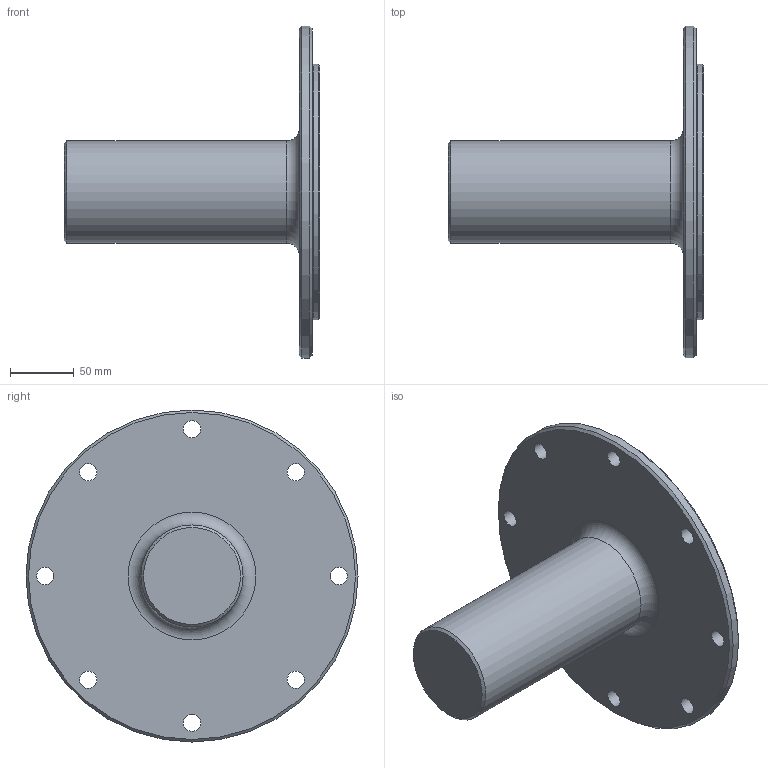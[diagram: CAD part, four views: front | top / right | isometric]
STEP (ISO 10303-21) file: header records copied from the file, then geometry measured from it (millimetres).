
FILE_DESCRIPTION(/* description */ (''),/* implementation_level */ '2;1');
FILE_NAME(/* name */ 'C:\Users\jbart\OneDrive\Plocha\Nová složka\3D modely - stp\Výstup.stp',/* time_stamp */ '2025-05-15T16:53:02+02:00',/* author */ ('jbart'),/* organization */ (''),/* preprocessor_version */ 'ST-DEVELOPER v18.1',/* originating_system */ 'Autodesk Inventor 2022',/* authorisation */ '');
FILE_SCHEMA (('AUTOMOTIVE_DESIGN { 1 0 10303 214 3 1 1 }'));
Length unit declared in the file: millimetre
Products named in the file (1): Výstupní hřídel
Bounding box: 200 x 260 x 260 mm (x, y, z)
Volume: 1634630.5 mm3; surface area: 161574 mm2
Topology: 1 solids, 1 shells, 21 faces, 51 edges, 34 vertices
Faces by surface type: cylinder 11, plane 4, cone 4, torus 2
Full cylindrical faces by diameter (mm): 13.5 x8, 80 x1, 200 x1, 260 x1
Entity records: 714 total; most frequent: DIRECTION 131, CARTESIAN_POINT 107, ORIENTED_EDGE 102, AXIS2_PLACEMENT_3D 58, EDGE_CURVE 51, EDGE_LOOP 39, CIRCLE 36, VERTEX_POINT 34
